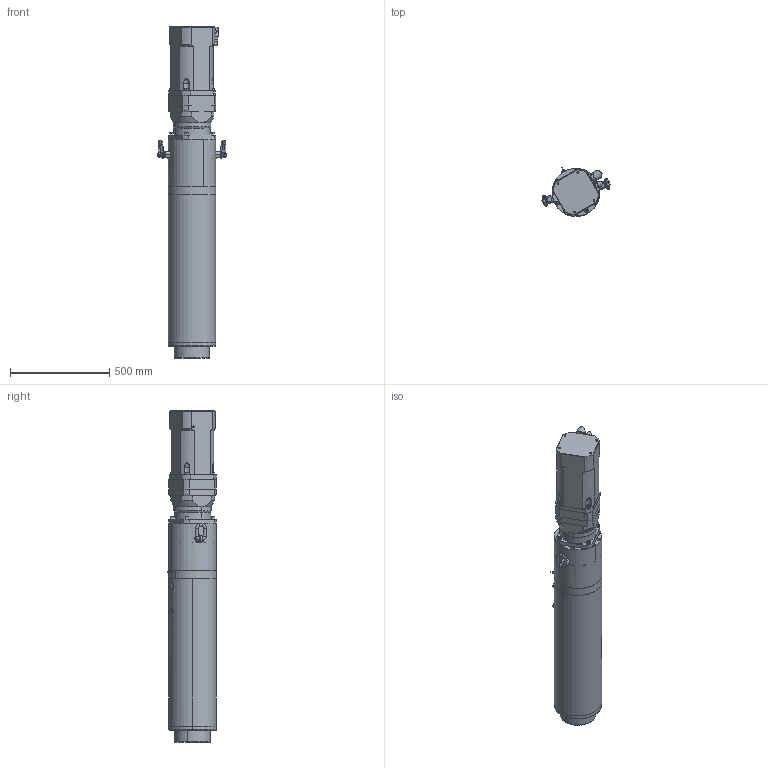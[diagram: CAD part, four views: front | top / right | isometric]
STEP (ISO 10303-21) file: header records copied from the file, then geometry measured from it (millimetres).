
FILE_DESCRIPTION (( 'STEP AP203' ), '1' );
FILE_NAME ('LN5I2000-035-010NG0.STEP', '2015-08-28T07:11:14', ( 'Holtz' ), ( '' ), 'SwSTEP 2.0', 'SolidWorks 2013', '' );
FILE_SCHEMA (( 'CONFIG_CONTROL_DESIGN' ));
Length unit declared in the file: millimetre
Products named in the file (1): LN5I2000-035-010NG0
Bounding box: 345.55 x 245.71 x 1673 mm (x, y, z)
Surface area: 3264689.7 mm2 (no closed solid volume)
Topology: 0 solids, 36 shells, 1328 faces, 3166 edges, 1928 vertices
Faces by surface type: cylinder 558, plane 478, cone 216, torus 70, bspline 6
Entity records: 39868 total; most frequent: CARTESIAN_POINT 8981, DIRECTION 6831, ORIENTED_EDGE 6044, EDGE_CURVE 3028, AXIS2_PLACEMENT_3D 2678, VERTEX_POINT 1928, EDGE_LOOP 1578, LINE 1475
